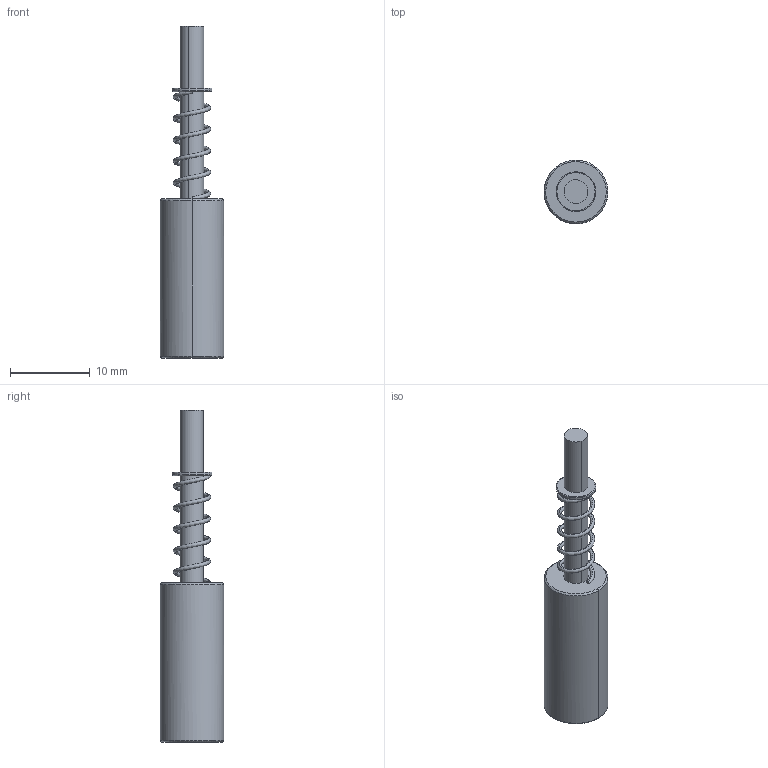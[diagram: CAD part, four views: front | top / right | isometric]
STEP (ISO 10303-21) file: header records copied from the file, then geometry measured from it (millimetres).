
FILE_DESCRIPTION (( 'STEP AP214' ), '1' );
FILE_NAME ('Solenoide Full.STEP', '2026-02-03T16:47:05', ( '' ), ( '' ), 'SwSTEP 2.0', 'SolidWorks 2026', '' );
FILE_SCHEMA (( 'AUTOMOTIVE_DESIGN' ));
Length unit declared in the file: millimetre
Products named in the file (5): Solenoide Pt2; Solenoide Full; Resorte; Solenoide PT1; Coil
Assembly tree (4 placements, depth 2):
  Solenoide Full
    Solenoide PT1
    Solenoide Pt2
    Resorte
    Coil
Bounding box: 8 x 8 x 41.74 mm (x, y, z)
Volume: 761.2 mm3; surface area: 2659.8 mm2
Topology: 5 solids, 6 shells, 45 faces, 82 edges, 52 vertices
Faces by surface type: plane 17, cylinder 14, bspline 8, torus 4, cone 2
Entity records: 25597 total; most frequent: CARTESIAN_POINT 24582, DIRECTION 194, ORIENTED_EDGE 164, AXIS2_PLACEMENT_3D 88, EDGE_CURVE 82, VERTEX_POINT 52, EDGE_LOOP 50, FACE_OUTER_BOUND 45
